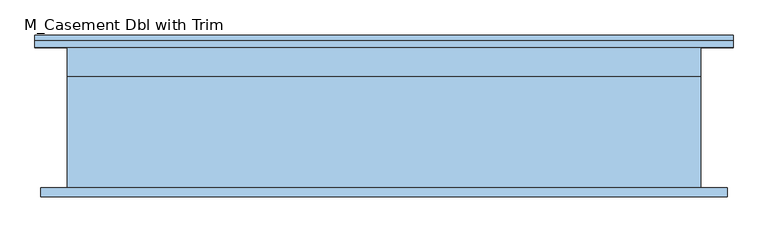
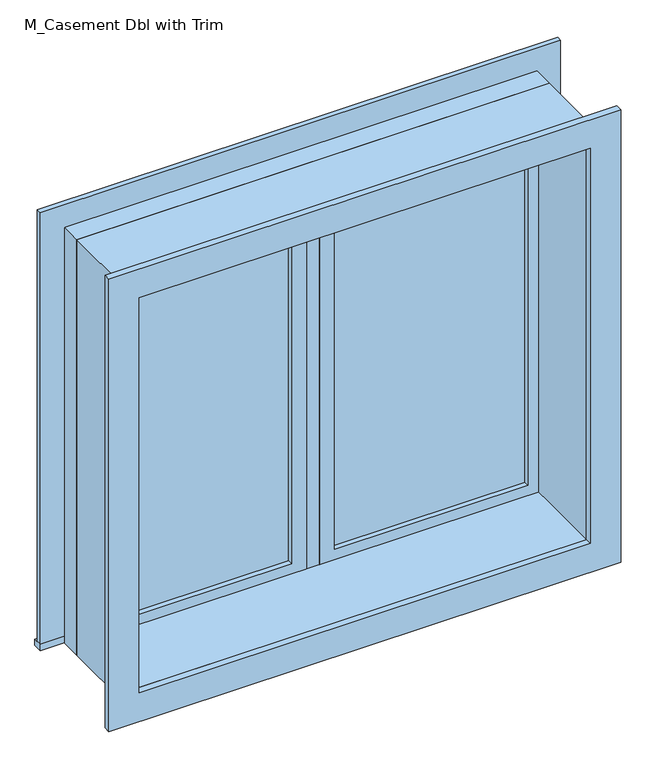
"""IFC4 building model written with IfcOpenShell, lengths in millimetres: window geometry, M_Casement Dbl with Trim : Pencere Özel İmalat."""

from ifc_helpers import new_model, si_unit, frame, origin, place, context, project, spatial, polyline, outline, extrude, source, transform, mapped, element, save


def m_casement_dbl_with_trim_d4e5bdbe(model_context):
    return source(origin(), model_context, "Body", "SweptSolid", [
        extrude(outline(polyline([(63.5, 138.175), (636.5, 138.175), (636.5, 125.475), (63.5, 125.475), (63.5, 138.175)])), frame((0.0, 0.0, 913.5), z_axis=(0.0, 0.0, 1.0), x_axis=(1.0, 0.0, 0.0)), (0.0, 0.0, 1.0), 1173.0),
        extrude(outline(polyline([(2130.95, 19.05), (869.05, 19.05), (869.05, 680.95), (2130.95, 680.95), (2130.95, 19.05)]), holes=[polyline([(2086.5, 63.5), (2086.5, 636.5), (913.5, 636.5), (913.5, 63.5), (2086.5, 63.5)])]), frame((0.0, 109.6, 0.0), z_axis=(0.0, 1.0, 0.0), x_axis=(0.0, 0.0, 1.0)), (0.0, 0.0, 1.0), 44.45),
        extrude(outline(polyline([(-770.95, 201.75), (770.95, 201.75), (770.95, 174.05), (-770.95, 174.05), (-770.95, 201.75)])), frame((0.0, 0.0, 850.0), z_axis=(0.0, 0.0, 1.0), x_axis=(1.0, 0.0, 0.0)), (0.0, 0.0, 1.0), 19.05),
        extrude(outline(polyline([(2130.95, -680.95), (2130.95, 680.95), (869.05, 680.95), (869.05, 770.95), (2220.95, 770.95), (2220.95, -770.95), (869.05, -770.95), (869.05, -680.95), (2130.95, -680.95)])), frame((0.0, 174.05, 0.0), z_axis=(0.0, 1.0, 0.0), x_axis=(0.0, 0.0, 1.0)), (0.0, 0.0, 1.0), 15.0),
        extrude(outline(polyline([(2208.25, 758.25), (2208.25, -758.25), (791.75, -758.25), (791.75, 758.25), (2208.25, 758.25)]), holes=[polyline([(2118.25, 668.25), (881.75, 668.25), (881.75, -668.25), (2118.25, -668.25), (2118.25, 668.25)])]), frame((0.0, -155.95, 0.0), z_axis=(0.0, 1.0, 0.0), x_axis=(0.0, 0.0, 1.0)), (0.0, 0.0, 1.0), 20.0),
        extrude(outline(polyline([(-63.5, 125.475), (-636.5, 125.475), (-636.5, 138.175), (-63.5, 138.175), (-63.5, 125.475)])), frame((0.0, 0.0, 913.5), z_axis=(0.0, 0.0, 1.0), x_axis=(1.0, 0.0, 0.0)), (0.0, 0.0, 1.0), 1173.0),
        extrude(outline(polyline([(2130.95, -680.95), (869.05, -680.95), (869.05, -19.05), (2130.95, -19.05), (2130.95, -680.95)]), holes=[polyline([(2086.5, -636.5), (2086.5, -63.5), (913.5, -63.5), (913.5, -636.5), (2086.5, -636.5)])]), frame((0.0, 109.6, 0.0), z_axis=(0.0, 1.0, 0.0), x_axis=(0.0, 0.0, 1.0)), (0.0, 0.0, 1.0), 44.45),
        extrude(outline(polyline([(2150.0, -700.0), (850.0, -700.0), (850.0, 700.0), (2150.0, 700.0), (2150.0, -700.0)]), holes=[polyline([(2118.25, -668.25), (2118.25, 668.25), (881.75, 668.25), (881.75, -668.25), (2118.25, -668.25)])]), frame((0.0, -135.95, 0.0), z_axis=(0.0, 1.0, 0.0), x_axis=(0.0, 0.0, 1.0)), (0.0, 0.0, 1.0), 245.55),
        extrude(outline(polyline([(2150.0, 700.0), (2150.0, -700.0), (850.0, -700.0), (850.0, 700.0), (2150.0, 700.0)]), holes=[polyline([(2130.95, 680.95), (869.05, 680.95), (869.05, -680.95), (2130.95, -680.95), (2130.95, 680.95)])]), frame((0.0, 109.6, 0.0), z_axis=(0.0, 1.0, 0.0), x_axis=(0.0, 0.0, 1.0)), (0.0, 0.0, 1.0), 64.45),
        extrude(outline(polyline([(19.05, 109.6), (-19.05, 109.6), (-19.05, 173.1), (19.05, 173.1), (19.05, 109.6)])), frame((0.0, 0.0, 869.05), z_axis=(0.0, 0.0, 1.0), x_axis=(1.0, 0.0, 0.0)), (0.0, 0.0, 1.0), 1261.9),
    ])


if __name__ == "__main__":
    model = new_model("IFC4")
    model_context = context("Model", 3, world=origin())
    ifc_project = project(units=[si_unit("LENGTHUNIT", "METRE", prefix="MILLI")], contexts=[model_context])
    site = spatial("IfcSite", under=ifc_project)
    building = spatial("IfcBuilding", under=site)
    placement = place(None, origin())
    m_casement_dbl_with_trim_shape = m_casement_dbl_with_trim_d4e5bdbe(model_context)
    element("IfcWindow", 1, ObjectType="M_Casement Dbl with Trim : Pencere Özel İmalat", at=placement, inside=building, context=model_context, shape_type="MappedRepresentation", body=[
        mapped(m_casement_dbl_with_trim_shape, transform((0.0, 0.0, 0.0), x_axis=(1.0, 0.0, 0.0), y_axis=(0.0, 1.0, 0.0), z_axis=(0.0, 0.0, 1.0))),
    ])
    save(model, "model.ifc")
